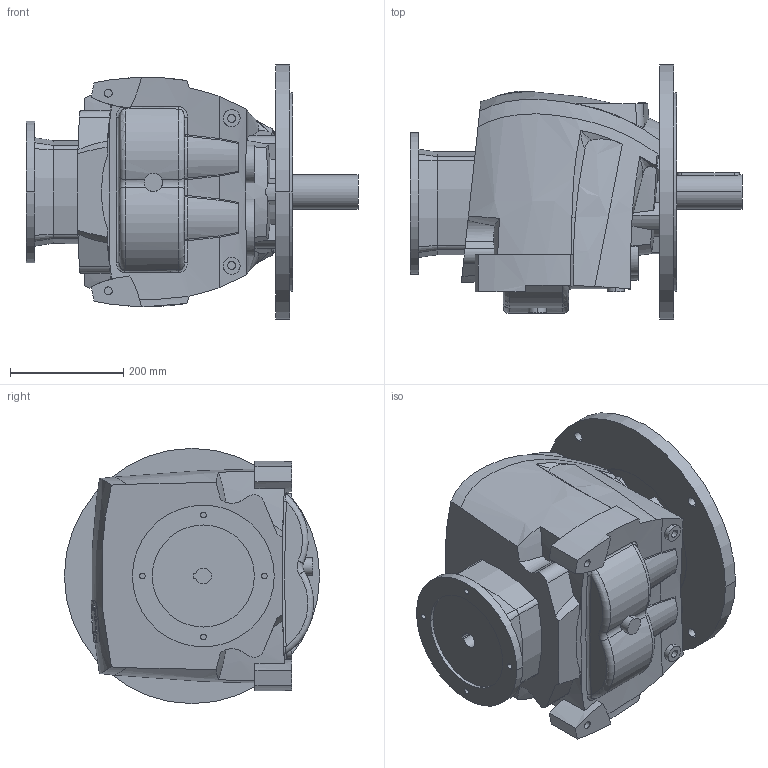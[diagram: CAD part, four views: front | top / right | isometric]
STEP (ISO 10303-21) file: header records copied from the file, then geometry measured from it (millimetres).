
FILE_DESCRIPTION((''),'2;1');
FILE_NAME('R60_450_PAM100112','2013-12-23T',('Luca'),(''),'PRO/ENGINEER BY PARAMETRIC TECHNOLOGY CORPORATION, 2008230','PRO/ENGINEER BY PARAMETRIC TECHNOLOGY CORPORATION, 2008230','');
FILE_SCHEMA(('CONFIG_CONTROL_DESIGN'));
Length unit declared in the file: millimetre
Products named in the file (1): R60_450_PAM100112
Bounding box: 585.5 x 450 x 450 mm (x, y, z)
Volume: 42892499.2 mm3; surface area: 1144464.7 mm2
Topology: 1 solids, 7 shells, 455 faces, 1198 edges, 791 vertices
Faces by surface type: plane 170, cylinder 155, bspline 96, cone 15, torus 14, sphere 4, extrusion 1
Entity records: 19486 total; most frequent: CARTESIAN_POINT 9035, ORIENTED_EDGE 2392, DIRECTION 1782, EDGE_CURVE 1196, VERTEX_POINT 791, AXIS2_PLACEMENT_3D 652, EDGE_LOOP 511, VECTOR 478
